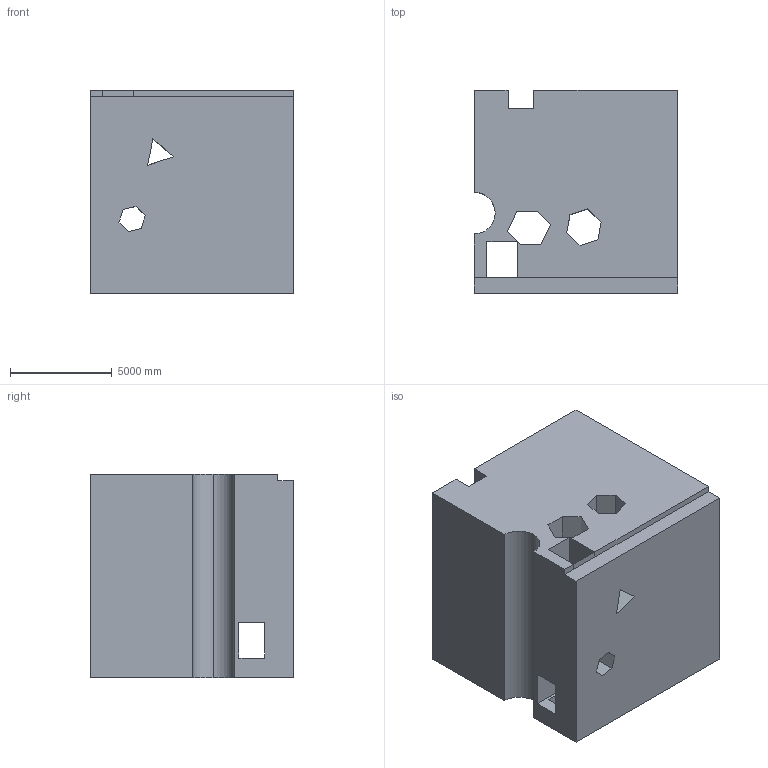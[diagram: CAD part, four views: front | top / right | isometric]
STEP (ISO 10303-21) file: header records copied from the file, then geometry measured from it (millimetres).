
FILE_DESCRIPTION (( 'STEP AP203' ), '1' );
FILE_NAME ('89.STEP', '2022-09-02T15:25:43', ( 'user' ), ( '' ), 'SwSTEP 2.0', 'SolidWorks 2021', '' );
FILE_SCHEMA (( 'CONFIG_CONTROL_DESIGN' ));
Length unit declared in the file: centimetre
Products named in the file (1): 89
Bounding box: 10000 x 10000 x 10000 mm (x, y, z)
Volume: 863019602712.9 mm3; surface area: 872217957.5 mm2
Topology: 1 solids, 1 shells, 64 faces, 228 edges, 152 vertices
Faces by surface type: plane 62, cylinder 2
Entity records: 2521 total; most frequent: ORIENTED_EDGE 456, CARTESIAN_POINT 445, DIRECTION 362, EDGE_CURVE 228, VECTOR 224, LINE 224, VERTEX_POINT 152, EDGE_LOOP 74
